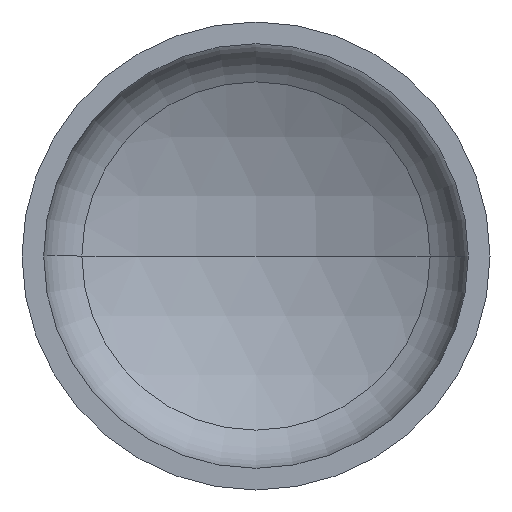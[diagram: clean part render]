
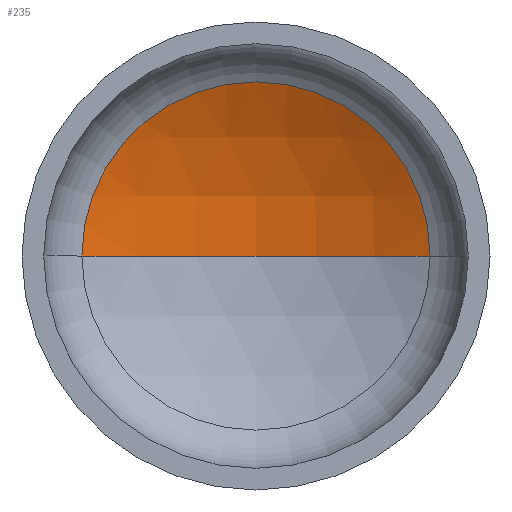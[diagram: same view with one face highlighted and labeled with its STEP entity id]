
A CAD part, front view. The second image highlights one B-rep face of the part: STEP entity #235.
In plain terms, the highlighted spherical face has radius 1520 mm.
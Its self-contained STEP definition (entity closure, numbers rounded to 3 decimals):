
#1 = DIRECTION ( 'NONE',  ( -1., 0., 0. ) ) ;
#5 = DIRECTION ( 'NONE',  ( -1., 0., 0. ) ) ;
#9 = AXIS2_PLACEMENT_3D ( 'NONE', #399, #259, #1 ) ;
#18 = AXIS2_PLACEMENT_3D ( 'NONE', #65, #140, #147 ) ;
#27 = EDGE_LOOP ( 'NONE', ( #43, #38, #389 ) ) ;
#38 = ORIENTED_EDGE ( 'NONE', *, *, #373, .T. ) ;
#39 = VERTEX_POINT ( 'NONE', #241 ) ;
#43 = ORIENTED_EDGE ( 'NONE', *, *, #355, .F. ) ;
#63 = AXIS2_PLACEMENT_3D ( 'NONE', #196, #72, #5 ) ;
#65 = CARTESIAN_POINT ( 'NONE',  ( 0., -988.906, 0. ) ) ;
#72 = DIRECTION ( 'NONE',  ( 0., 0., -1. ) ) ;
#90 = VERTEX_POINT ( 'NONE', #228 ) ;
#140 = DIRECTION ( 'NONE',  ( 0., 0., 1. ) ) ;
#147 = DIRECTION ( 'NONE',  ( 1., 0., 0. ) ) ;
#151 = CARTESIAN_POINT ( 'NONE',  ( 0., 356.734, 0. ) ) ;
#163 = FACE_OUTER_BOUND ( 'NONE', #27, .T. ) ;
#188 = CIRCLE ( 'NONE', #9, 1520. ) ;
#196 = CARTESIAN_POINT ( 'NONE',  ( 0., -988.906, 0. ) ) ;
#197 = CARTESIAN_POINT ( 'NONE',  ( 706.862, 356.734, 0. ) ) ;
#199 = VERTEX_POINT ( 'NONE', #197 ) ;
#228 = CARTESIAN_POINT ( 'NONE',  ( 0., 531.094, 0. ) ) ;
#235 = ADVANCED_FACE ( 'NONE', ( #163 ), #356, .F. ) ;
#241 = CARTESIAN_POINT ( 'NONE',  ( -706.862, 356.734, 0. ) ) ;
#250 = CIRCLE ( 'NONE', #272, 706.862 ) ;
#259 = DIRECTION ( 'NONE',  ( 0., 0., -1. ) ) ;
#272 = AXIS2_PLACEMENT_3D ( 'NONE', #151, #328, #409 ) ;
#322 = CIRCLE ( 'NONE', #18, 1520. ) ;
#328 = DIRECTION ( 'NONE',  ( 0., -1., 0. ) ) ;
#355 = EDGE_CURVE ( 'NONE', #90, #39, #322, .T. ) ;
#356 = SPHERICAL_SURFACE ( 'NONE', #63, 1520. ) ;
#373 = EDGE_CURVE ( 'NONE', #90, #199, #188, .T. ) ;
#380 = EDGE_CURVE ( 'NONE', #199, #39, #250, .T. ) ;
#389 = ORIENTED_EDGE ( 'NONE', *, *, #380, .T. ) ;
#399 = CARTESIAN_POINT ( 'NONE',  ( 0., -988.906, 0. ) ) ;
#409 = DIRECTION ( 'NONE',  ( 1., 0., 0. ) ) ;
